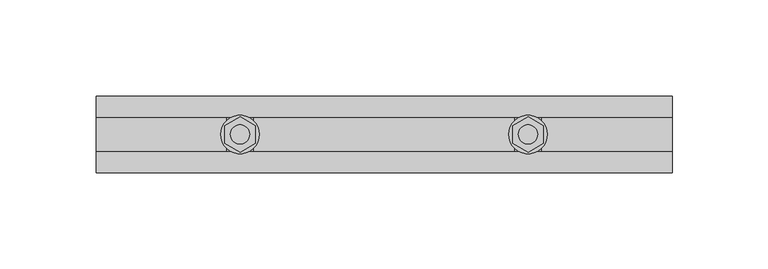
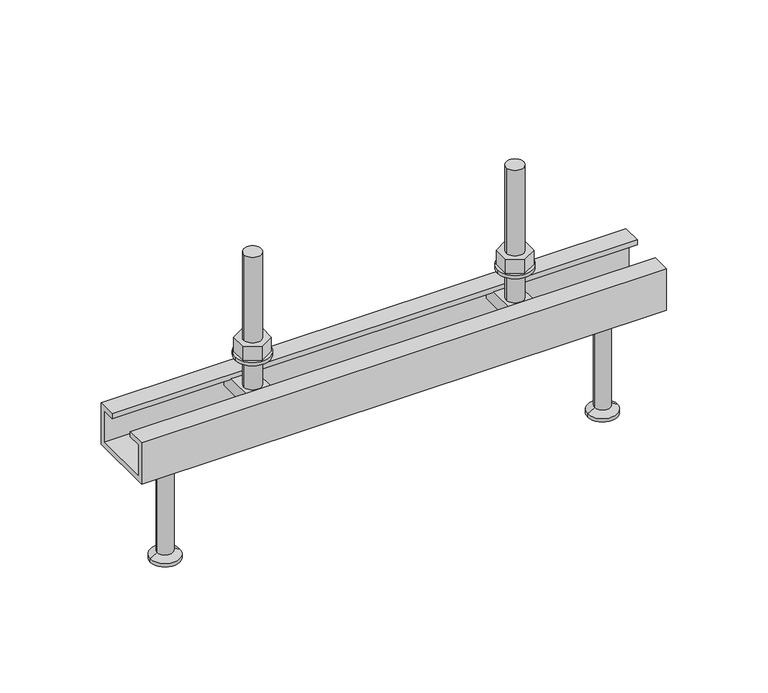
"""IFC4 building model written with IfcOpenShell, lengths in millimetres: fastener geometry, JTA-K JORDAHL® AnchorChannels : JTA-K L=300 mm."""

from ifc_helpers import new_model, si_unit, point, frame, frame_2d, origin, place, context, project, spatial, polyline, circle_curve, trimmed, segment, composite_curve, outline, extrude, source, transform, mapped, element, save
from ifc_brep_helpers import plane_surface, cylinder_surface, revolved_surface, advanced_brep


def fastener_2c174a87(model_context):
    return source(origin(), model_context, "Body", "SolidModel", [
        extrude(outline(polyline([(225.0, -9.2376043), (217.0, -4.6188022), (217.0, 4.6188022), (225.0, 9.2376043), (233.0, 4.6188022), (233.0, -4.6188022), (225.0, -9.2376043)]), holes=[composite_curve([segment(trimmed(circle_curve(frame_2d((225.0, 0.0)), 5.0), [point((220.0, 0.0))], [point((230.0, 0.0))], True, "CARTESIAN"), True, "CONTINUOUS"), segment(trimmed(circle_curve(frame_2d((225.0, 0.0)), 5.0), [point((230.0, 0.0))], [point((220.0, 0.0))], True, "CARTESIAN"), True, "CONTINUOUS")], self_intersect=False)]), frame((0.0, 0.0, 17.0), z_axis=(0.0, 0.0, 1.0), x_axis=(1.0, 0.0, 0.0)), (0.0, 0.0, 1.0), 8.4),
        extrude(outline(composite_curve([segment(trimmed(circle_curve(frame_2d((225.0, 0.0)), 10.0), [point((215.0, 0.0))], [point((235.0, 0.0))], False, "CARTESIAN"), True, "CONTINUOUS"), segment(trimmed(circle_curve(frame_2d((225.0, 0.0)), 10.0), [point((235.0, 0.0))], [point((215.0, 0.0))], False, "CARTESIAN"), True, "CONTINUOUS")], self_intersect=False), holes=[composite_curve([segment(trimmed(circle_curve(frame_2d((225.0, 0.0)), 5.25), [point((219.75, 0.0))], [point((230.25, 0.0))], True, "CARTESIAN"), True, "CONTINUOUS"), segment(trimmed(circle_curve(frame_2d((225.0, 0.0)), 5.25), [point((230.25, 0.0))], [point((219.75, 0.0))], True, "CARTESIAN"), True, "CONTINUOUS")], self_intersect=False)]), frame((0.0, 0.0, 15.0), z_axis=(0.0, 0.0, 1.0), x_axis=(1.0, 0.0, 0.0)), (0.0, 0.0, 1.0), 2.0),
        extrude(outline(polyline([(75.0, -9.2376043), (67.0, -4.6188022), (67.0, 4.6188022), (75.0, 9.2376043), (83.0, 4.6188022), (83.0, -4.6188022), (75.0, -9.2376043)]), holes=[composite_curve([segment(trimmed(circle_curve(frame_2d((75.0, 0.0)), 5.0), [point((70.0, 0.0))], [point((80.0, 0.0))], True, "CARTESIAN"), True, "CONTINUOUS"), segment(trimmed(circle_curve(frame_2d((75.0, 0.0)), 5.0), [point((80.0, 0.0))], [point((70.0, 0.0))], True, "CARTESIAN"), True, "CONTINUOUS")], self_intersect=False)]), frame((0.0, 0.0, 17.0), z_axis=(0.0, 0.0, 1.0), x_axis=(1.0, 0.0, 0.0)), (0.0, 0.0, 1.0), 8.4),
        extrude(outline(composite_curve([segment(trimmed(circle_curve(frame_2d((75.0, 0.0)), 10.0), [point((65.0, 0.0))], [point((85.0, 0.0))], False, "CARTESIAN"), True, "CONTINUOUS"), segment(trimmed(circle_curve(frame_2d((75.0, 0.0)), 10.0), [point((85.0, 0.0))], [point((65.0, 0.0))], False, "CARTESIAN"), True, "CONTINUOUS")], self_intersect=False), holes=[composite_curve([segment(trimmed(circle_curve(frame_2d((75.0, 0.0)), 5.25), [point((69.75, 0.0))], [point((80.25, 0.0))], True, "CARTESIAN"), True, "CONTINUOUS"), segment(trimmed(circle_curve(frame_2d((75.0, 0.0)), 5.25), [point((80.25, 0.0))], [point((69.75, 0.0))], True, "CARTESIAN"), True, "CONTINUOUS")], self_intersect=False)]), frame((0.0, 0.0, 15.0), z_axis=(0.0, 0.0, 1.0), x_axis=(1.0, 0.0, 0.0)), (0.0, 0.0, 1.0), 2.0),
        advanced_brep(
        [(232.0, -16.0, -3.0), (232.0, -16.0, -11.0), (232.0, 16.0, -11.0), (232.0, 16.0, -3.0), (218.0, -16.0, -3.0), (218.0, 16.0, -3.0), (218.0, 16.0, -11.0), (218.0, -16.0, -11.0), (230.0, 0.0, -3.0), (220.0, 0.0, -3.0), (220.0, 0.0, 77.0), (230.0, 0.0, 77.0)],
        [
            (0, 1),
            (1, 2),
            (2, 3),
            (3, 0),
            (4, 5),
            (5, 6),
            (6, 7),
            (7, 4),
            (3, 5),
            (4, 0),
            (8, 9, circle_curve(frame((225.0, 0.0, -3.0), z_axis=(0.0, 0.0, -1.0), x_axis=(1.0, 0.0, 0.0)), 5.0)),
            (9, 8, circle_curve(frame((225.0, 0.0, -3.0), z_axis=(0.0, 0.0, -1.0), x_axis=(1.0, 0.0, 0.0)), 5.0)),
            (2, 6),
            (1, 7),
            (10, 11, circle_curve(frame((225.0, 0.0, 77.0), z_axis=(0.0, 0.0, 1.0), x_axis=(1.0, 0.0, 0.0)), 5.0)),
            (11, 10, circle_curve(frame((225.0, 0.0, 77.0), z_axis=(0.0, 0.0, 1.0), x_axis=(1.0, 0.0, 0.0)), 5.0)),
            (11, 8),
            (9, 10),
        ],
        [
            plane_surface(frame((232.0, 16.0, -3.0), z_axis=(1.0, 0.0, 0.0), x_axis=(0.0, 1.0, 0.0))),
            plane_surface(frame((218.0, 16.0, -3.0), z_axis=(-1.0, 0.0, 0.0), x_axis=(0.0, -1.0, 0.0))),
            plane_surface(frame((232.0, -16.0, -3.0), z_axis=(0.0, 0.0, 1.0), x_axis=(-1.0, 0.0, 0.0))),
            plane_surface(frame((232.0, 16.0, -3.0), z_axis=(0.0, 1.0, 0.0), x_axis=(-1.0, 0.0, 0.0))),
            plane_surface(frame((232.0, 16.0, -11.0), z_axis=(0.0, 0.0, -1.0), x_axis=(-1.0, 0.0, 0.0))),
            plane_surface(frame((232.0, -16.0, -11.0), z_axis=(0.0, -1.0, 0.0), x_axis=(-1.0, 0.0, 0.0))),
            plane_surface(frame((230.0, 0.0, 77.0), z_axis=(0.0, 0.0, 1.0), x_axis=(0.0, -1.0, 0.0))),
            cylinder_surface(frame((225.0, 0.0, -3.0), z_axis=(0.0, 0.0, 1.0), x_axis=(1.0, 0.0, 0.0)), 5.0),
        ],
        [
            (0, [[1, 2, 3, 4]]),
            (1, [[5, 6, 7, 8]]),
            (2, [[9, -5, 10, -4], [11, 12]]),
            (3, [[13, -6, -9, -3]]),
            (4, [[14, -7, -13, -2]]),
            (5, [[-10, -8, -14, -1]]),
            (6, [[15, 16]]),
            (7, [[17, -12, 18, -16]]),
            (7, [[-18, -11, -17, -15]]),
        ],
    ),
        advanced_brep(
        [(82.0, -16.0, -3.0), (82.0, -16.0, -11.0), (82.0, 16.0, -11.0), (82.0, 16.0, -3.0), (68.0, -16.0, -3.0), (68.0, 16.0, -3.0), (68.0, 16.0, -11.0), (68.0, -16.0, -11.0), (80.0, 0.0, -3.0), (70.0, 0.0, -3.0), (70.0, 0.0, 77.0), (80.0, 0.0, 77.0)],
        [
            (0, 1),
            (1, 2),
            (2, 3),
            (3, 0),
            (4, 5),
            (5, 6),
            (6, 7),
            (7, 4),
            (3, 5),
            (4, 0),
            (8, 9, circle_curve(frame((75.0, 0.0, -3.0), z_axis=(0.0, 0.0, -1.0), x_axis=(1.0, 0.0, 0.0)), 5.0)),
            (9, 8, circle_curve(frame((75.0, 0.0, -3.0), z_axis=(0.0, 0.0, -1.0), x_axis=(1.0, 0.0, 0.0)), 5.0)),
            (2, 6),
            (1, 7),
            (10, 11, circle_curve(frame((75.0, 0.0, 77.0), z_axis=(0.0, 0.0, 1.0), x_axis=(1.0, 0.0, 0.0)), 5.0)),
            (11, 10, circle_curve(frame((75.0, 0.0, 77.0), z_axis=(0.0, 0.0, 1.0), x_axis=(1.0, 0.0, 0.0)), 5.0)),
            (11, 8),
            (9, 10),
        ],
        [
            plane_surface(frame((82.0, 16.0, -3.0), z_axis=(1.0, 0.0, 0.0), x_axis=(0.0, 1.0, 0.0))),
            plane_surface(frame((68.0, 16.0, -3.0), z_axis=(-1.0, 0.0, 0.0), x_axis=(0.0, -1.0, 0.0))),
            plane_surface(frame((82.0, -16.0, -3.0), z_axis=(0.0, 0.0, 1.0), x_axis=(-1.0, 0.0, 0.0))),
            plane_surface(frame((82.0, 16.0, -3.0), z_axis=(0.0, 1.0, 0.0), x_axis=(-1.0, 0.0, 0.0))),
            plane_surface(frame((82.0, 16.0, -11.0), z_axis=(0.0, 0.0, -1.0), x_axis=(-1.0, 0.0, 0.0))),
            plane_surface(frame((82.0, -16.0, -11.0), z_axis=(0.0, -1.0, 0.0), x_axis=(-1.0, 0.0, 0.0))),
            plane_surface(frame((80.0, 0.0, 77.0), z_axis=(0.0, 0.0, 1.0), x_axis=(0.0, -1.0, 0.0))),
            cylinder_surface(frame((75.0, 0.0, -3.0), z_axis=(0.0, 0.0, 1.0), x_axis=(1.0, 0.0, 0.0)), 5.0),
        ],
        [
            (0, [[1, 2, 3, 4]]),
            (1, [[5, 6, 7, 8]]),
            (2, [[9, -5, 10, -4], [11, 12]]),
            (3, [[13, -6, -9, -3]]),
            (4, [[14, -7, -13, -2]]),
            (5, [[-10, -8, -14, -1]]),
            (6, [[15, 16]]),
            (7, [[17, -12, 18, -16]]),
            (7, [[-18, -11, -17, -15]]),
        ],
    ),
        advanced_brep(
        [(275.0, 0.0, -25.0), (261.5, 0.0, -25.0), (288.5, 0.0, -25.0), (266.5, 0.0, -90.0), (275.0, 0.0, -90.0), (283.5, 0.0, -90.0), (266.5, 0.0, -88.0), (283.5, 0.0, -88.0), (270.5, 0.0, -85.6905989), (279.5, 0.0, -85.6905989), (270.5, 0.0, -27.5), (279.5, 0.0, -27.5)],
        [
            (0, 1),
            (1, 2, circle_curve(frame((275.0, 0.0, -25.0), z_axis=(0.0, 0.0, 1.0), x_axis=(1.0, 0.0, 0.0)), 13.5)),
            (2, 0),
            (2, 1, circle_curve(frame((275.0, 0.0, -25.0), z_axis=(0.0, 0.0, 1.0), x_axis=(1.0, 0.0, 0.0)), 13.5)),
            (3, 4),
            (4, 5),
            (5, 3, circle_curve(frame((275.0, 0.0, -90.0), z_axis=(0.0, 0.0, -1.0), x_axis=(1.0, 0.0, 0.0)), 8.5)),
            (3, 5, circle_curve(frame((275.0, 0.0, -90.0), z_axis=(0.0, 0.0, -1.0), x_axis=(1.0, 0.0, 0.0)), 8.5)),
            (6, 3),
            (5, 7),
            (7, 6, circle_curve(frame((275.0, 0.0, -88.0), z_axis=(0.0, 0.0, -1.0), x_axis=(1.0, 0.0, 0.0)), 8.5)),
            (6, 7, circle_curve(frame((275.0, 0.0, -88.0), z_axis=(0.0, 0.0, -1.0), x_axis=(1.0, 0.0, 0.0)), 8.5)),
            (8, 6),
            (7, 9),
            (9, 8, circle_curve(frame((275.0, 0.0, -85.6905989), z_axis=(0.0, 0.0, -1.0), x_axis=(1.0, 0.0, 0.0)), 4.5)),
            (8, 9, circle_curve(frame((275.0, 0.0, -85.6905989), z_axis=(0.0, 0.0, -1.0), x_axis=(1.0, 0.0, 0.0)), 4.5)),
            (10, 8),
            (9, 11),
            (11, 10, circle_curve(frame((275.0, 0.0, -27.5), z_axis=(0.0, 0.0, -1.0), x_axis=(1.0, 0.0, 0.0)), 4.5)),
            (10, 11, circle_curve(frame((275.0, 0.0, -27.5), z_axis=(0.0, 0.0, -1.0), x_axis=(1.0, 0.0, 0.0)), 4.5)),
            (1, 10),
            (11, 2),
        ],
        [
            plane_surface(frame((275.0, 0.0, -25.0), z_axis=(0.0, 0.0, 1.0), x_axis=(1.0, 0.0, 0.0))),
            plane_surface(frame((275.0, 0.0, -90.0), z_axis=(0.0, 0.0, -1.0), x_axis=(1.0, 0.0, 0.0))),
            cylinder_surface(frame((275.0, 0.0, 2279.3150031), z_axis=(0.0, 0.0, 1.0), x_axis=(1.0, 0.0, 0.0)), 8.5),
            revolved_surface(polyline([(283.5, 0.0, -88.0), (279.5, 0.0, -85.6905989)]), (275.0, 0.0, 2279.3150031), (0.0, 0.0, 1.0)),
            cylinder_surface(frame((275.0, 0.0, 2279.3150031), z_axis=(0.0, 0.0, 1.0), x_axis=(1.0, 0.0, 0.0)), 4.5),
            revolved_surface(polyline([(279.5, 0.0, -27.5), (288.5, 0.0, -25.0)]), (275.0, 0.0, 2279.3150031), (0.0, 0.0, 1.0)),
        ],
        [
            (0, [[1, 2, 3]]),
            (0, [[-3, 4, -1]]),
            (1, [[5, 6, 7]]),
            (1, [[-6, -5, 8]]),
            (2, [[9, -7, 10, 11]]),
            (2, [[-10, -8, -9, 12]]),
            (3, [[13, -11, 14, 15]]),
            (3, [[-14, -12, -13, 16]]),
            (4, [[17, -15, 18, 19]]),
            (4, [[-18, -16, -17, 20]]),
            (5, [[21, -19, 22, -2]]),
            (5, [[-22, -20, -21, -4]]),
        ],
    ),
        advanced_brep(
        [(25.0, 0.0, -25.0), (11.5, 0.0, -25.0), (38.5, 0.0, -25.0), (16.5, 0.0, -90.0), (25.0, 0.0, -90.0), (33.5, 0.0, -90.0), (16.5, 0.0, -88.0), (33.5, 0.0, -88.0), (20.5, 0.0, -85.6905989), (29.5, 0.0, -85.6905989), (20.5, 0.0, -27.5), (29.5, 0.0, -27.5)],
        [
            (0, 1),
            (1, 2, circle_curve(frame((25.0, 0.0, -25.0), z_axis=(0.0, 0.0, 1.0), x_axis=(1.0, 0.0, 0.0)), 13.5)),
            (2, 0),
            (2, 1, circle_curve(frame((25.0, 0.0, -25.0), z_axis=(0.0, 0.0, 1.0), x_axis=(1.0, 0.0, 0.0)), 13.5)),
            (3, 4),
            (4, 5),
            (5, 3, circle_curve(frame((25.0, 0.0, -90.0), z_axis=(0.0, 0.0, -1.0), x_axis=(1.0, 0.0, 0.0)), 8.5)),
            (3, 5, circle_curve(frame((25.0, 0.0, -90.0), z_axis=(0.0, 0.0, -1.0), x_axis=(1.0, 0.0, 0.0)), 8.5)),
            (6, 3),
            (5, 7),
            (7, 6, circle_curve(frame((25.0, 0.0, -88.0), z_axis=(0.0, 0.0, -1.0), x_axis=(1.0, 0.0, 0.0)), 8.5)),
            (6, 7, circle_curve(frame((25.0, 0.0, -88.0), z_axis=(0.0, 0.0, -1.0), x_axis=(1.0, 0.0, 0.0)), 8.5)),
            (8, 6),
            (7, 9),
            (9, 8, circle_curve(frame((25.0, 0.0, -85.6905989), z_axis=(0.0, 0.0, -1.0), x_axis=(1.0, 0.0, 0.0)), 4.5)),
            (8, 9, circle_curve(frame((25.0, 0.0, -85.6905989), z_axis=(0.0, 0.0, -1.0), x_axis=(1.0, 0.0, 0.0)), 4.5)),
            (10, 8),
            (9, 11),
            (11, 10, circle_curve(frame((25.0, 0.0, -27.5), z_axis=(0.0, 0.0, -1.0), x_axis=(1.0, 0.0, 0.0)), 4.5)),
            (10, 11, circle_curve(frame((25.0, 0.0, -27.5), z_axis=(0.0, 0.0, -1.0), x_axis=(1.0, 0.0, 0.0)), 4.5)),
            (1, 10),
            (11, 2),
        ],
        [
            plane_surface(frame((25.0, 0.0, -25.0), z_axis=(0.0, 0.0, 1.0), x_axis=(1.0, 0.0, 0.0))),
            plane_surface(frame((25.0, 0.0, -90.0), z_axis=(0.0, 0.0, -1.0), x_axis=(1.0, 0.0, 0.0))),
            cylinder_surface(frame((25.0, 0.0, 2279.3150031), z_axis=(0.0, 0.0, 1.0), x_axis=(1.0, 0.0, 0.0)), 8.5),
            revolved_surface(polyline([(33.5, 0.0, -88.0), (29.5, 0.0, -85.6905989)]), (25.0, 0.0, 2279.3150031), (0.0, 0.0, 1.0)),
            cylinder_surface(frame((25.0, 0.0, 2279.3150031), z_axis=(0.0, 0.0, 1.0), x_axis=(1.0, 0.0, 0.0)), 4.5),
            revolved_surface(polyline([(29.5, 0.0, -27.5), (38.5, 0.0, -25.0)]), (25.0, 0.0, 2279.3150031), (0.0, 0.0, 1.0)),
        ],
        [
            (0, [[1, 2, 3]]),
            (0, [[-3, 4, -1]]),
            (1, [[5, 6, 7]]),
            (1, [[-6, -5, 8]]),
            (2, [[9, -7, 10, 11]]),
            (2, [[-10, -8, -9, 12]]),
            (3, [[13, -11, 14, 15]]),
            (3, [[-14, -12, -13, 16]]),
            (4, [[17, -15, 18, 19]]),
            (4, [[-18, -16, -17, 20]]),
            (5, [[21, -19, 22, -2]]),
            (5, [[-22, -20, -21, -4]]),
        ],
    ),
        extrude(outline(polyline([(-20.0, 0.0), (-9.0, 0.0), (-9.0, -3.0), (-17.0, -3.0), (-17.0, -22.0), (17.0, -22.0), (17.0, -3.0), (9.0, -3.0), (9.0, 0.0), (20.0, 0.0), (20.0, -25.0), (-20.0, -25.0), (-20.0, 0.0)])), frame((0.0, 0.0, 0.0), z_axis=(1.0, 0.0, 0.0), x_axis=(0.0, 1.0, 0.0)), (0.0, 0.0, 1.0), 300.0),
    ])


if __name__ == "__main__":
    model = new_model("IFC4")
    model_context = context("Model", 3, world=origin())
    ifc_project = project(units=[si_unit("LENGTHUNIT", "METRE", prefix="MILLI")], contexts=[model_context])
    site = spatial("IfcSite", under=ifc_project)
    building = spatial("IfcBuilding", under=site)
    placement = place(None, origin())
    fastener_shape = fastener_2c174a87(model_context)
    element("IfcFastener", 1, ObjectType="JTA-K JORDAHL® AnchorChannels : JTA-K L=300 mm", at=placement, inside=building, context=model_context, shape_type="MappedRepresentation", body=[
        mapped(fastener_shape, transform((0.0, 0.0, 0.0), x_axis=(1.0, 0.0, 0.0), y_axis=(0.0, 1.0, 0.0), z_axis=(0.0, 0.0, 1.0))),
    ])
    save(model, "model.ifc")
